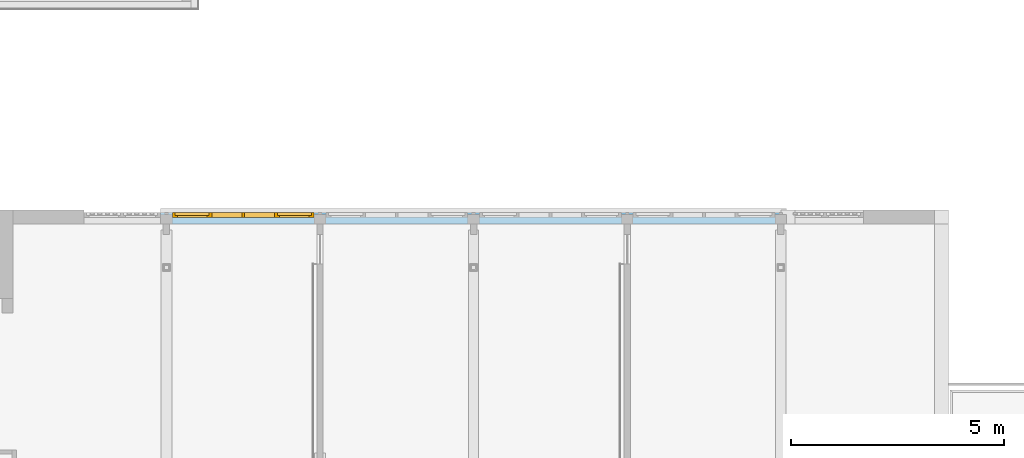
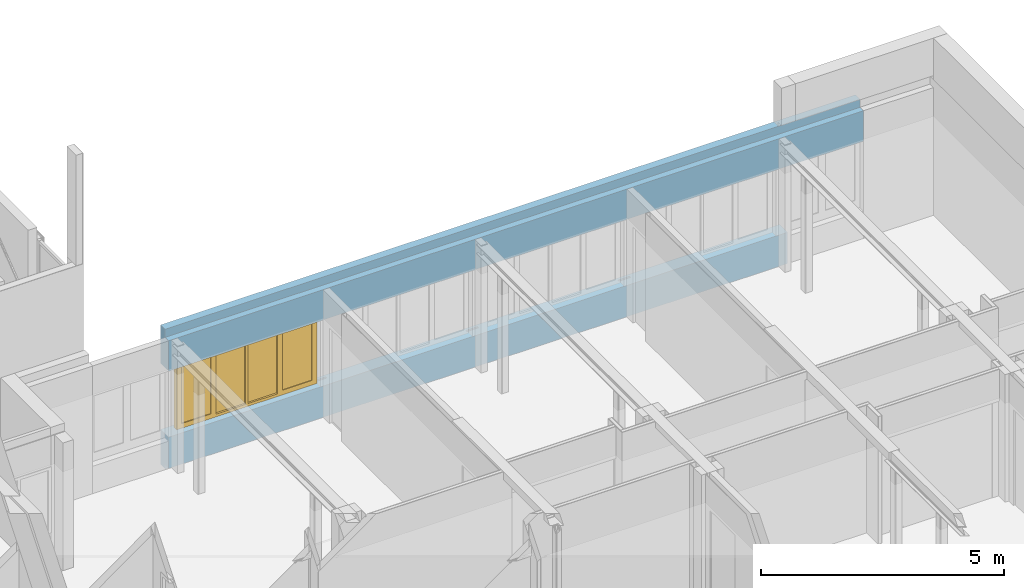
# One storey, part 42 of 117: 1 window, 6 openings, plus 1 element that does not belong to this part.
"""IFC2X3 building model written with IfcOpenShell, lengths in millimetres."""

from ifc_helpers import new_model, entity, si_unit, converted_unit, derived_unit, money_unit, direction, frame, origin_with_axes, place, context, subcontext, project, spatial, open_shell, faceted_brep, surface_model, material, type_object, element, fill, save


model = new_model("IFC2X3")

# Units and contexts
model_context = context("Model", 3, precision=0.01, world=origin_with_axes(), true_north=direction((0.0, 1.0)))
body_context = subcontext(model_context, "Body", "Model", "MODEL_VIEW")
ifc_project = project(units=[si_unit("LENGTHUNIT", "METRE", prefix="MILLI"), si_unit("AREAUNIT", "SQUARE_METRE"), si_unit("VOLUMEUNIT", "CUBIC_METRE"), converted_unit("PLANEANGLEUNIT", "DEGREE", entity("IfcPlaneAngleMeasure", 0.0174532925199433), si_unit("PLANEANGLEUNIT", "RADIAN"), dimensions=[0, 0, 0, 0, 0, 0, 0]), money_unit("EUR"), converted_unit("TIMEUNIT", "Year", entity("IfcTimeMeasure", 31557600.0), si_unit("TIMEUNIT", "SECOND"), dimensions=[0, 0, 1, 0, 0, 0, 0]), si_unit("MASSUNIT", "GRAM", prefix="KILO"), si_unit("THERMODYNAMICTEMPERATUREUNIT", "DEGREE_CELSIUS"), si_unit("LUMINOUSINTENSITYUNIT", "LUMEN"), si_unit("ENERGYUNIT", "JOULE", prefix="MEGA"), derived_unit("THERMALCONDUCTANCEUNIT", [(si_unit("POWERUNIT", "WATT"), 1), (si_unit("LENGTHUNIT", "METRE"), -1), (si_unit("THERMODYNAMICTEMPERATUREUNIT", "KELVIN"), -1)]), derived_unit("SPECIFICHEATCAPACITYUNIT", [(si_unit("ENERGYUNIT", "JOULE"), 1), (si_unit("MASSUNIT", "GRAM", prefix="KILO"), -1), (si_unit("THERMODYNAMICTEMPERATUREUNIT", "KELVIN"), -1)]), derived_unit("MASSDENSITYUNIT", [(si_unit("MASSUNIT", "GRAM", prefix="KILO"), 1), (si_unit("VOLUMEUNIT", "CUBIC_METRE"), -1)])], contexts=[model_context])

# Site, building, storey
site_placement = place(None, origin_with_axes())
site = spatial("IfcSite", under=ifc_project, at=site_placement, Name="Site", CompositionType="ELEMENT")
building_placement = place(site_placement, origin_with_axes())
building = spatial("IfcBuilding", under=site, at=building_placement, Name="Naam gebouw", CompositionType="ELEMENT")
storey_placement = place(building_placement, frame((0.0, 0.0, 4150.0), z_axis=(0.0, 0.0, 1.0), x_axis=(1.0, 0.0, 0.0)))
storey = spatial("IfcBuildingStorey", under=building, at=storey_placement, Name="1e verdieping N", CompositionType="ELEMENT", Elevation=4150.0)

# Wall, openings, window
ifc_material = material(Name="ALG - CONSTRUCTIEF")
wall_type = type_object("IfcWallType", Name="ALG - CONSTRUCTIEF 330", PredefinedType="NOTDEFINED")
wall_placement = place(storey_placement, frame((52337.49999999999, 27505.91242510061, -99.99999999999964), z_axis=(0.0, 0.0, 1.0), x_axis=(-1.0, 0.0, 0.0)))
wall = element("IfcWall", 1, at=wall_placement, inside=storey, type_object=wall_type, material=ifc_material, Name="_Wand-x", context=body_context, shape_type="Brep", body=[
    faceted_brep([(1799.999999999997, -216.0000000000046, 883.0000000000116), (1799.999999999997, -259.999999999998, 883.0000000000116), (2075.00000000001, -259.999999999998, 883.0000000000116), (2075.00000000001, -216.0000000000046, 883.0000000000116), (1799.999999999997, 0.0, 883.0000000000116), (1799.999999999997, 0.0, 786.5000000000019), (1799.999999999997, -146.0000000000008, 786.5000000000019), (1799.999999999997, -145.9999999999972, 99.99999999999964), (1799.999999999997, -145.9999999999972, 0.0), (1799.999999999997, -259.999999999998, 0.0), (1799.999999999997, -329.9999999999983, 0.0), (1799.999999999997, -329.9999999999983, 883.0000000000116), (16475.0, -329.9999999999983, 883.0000000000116), (16475.0, -259.999999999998, 883.0000000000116), (16200.0, -259.999999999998, 883.0000000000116), (16200.0, -216.0000000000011, 883.0000000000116), (16474.99999999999, -216.0000000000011, 883.0000000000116), (16474.99999999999, 0.0, 883.0000000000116), (5675.000000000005, -259.999999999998, 883.0000000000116), (5399.999999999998, -259.999999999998, 883.0000000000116), (5399.999999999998, -216.0000000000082, 883.0000000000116), (5675.000000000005, -216.0000000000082, 882.9999999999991), (9275.000000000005, -259.9999999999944, 883.0000000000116), (9000.0, -259.9999999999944, 883.0000000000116), (9000.0, -216.0000000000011, 882.9999999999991), (9275.000000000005, -216.0000000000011, 882.9999999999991), (12875.00000000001, -259.999999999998, 883.0000000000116), (12599.99999999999, -259.999999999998, 883.0000000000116), (12599.99999999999, -216.0000000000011, 883.0000000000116), (12875.00000000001, -216.0000000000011, 883.0000000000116), (16475.0, 0.0, 786.5000000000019), (16475.0, 0.0, 99.99999999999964), (1799.999999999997, 0.0, 99.99999999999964), (16475.0, -145.9999999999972, 99.99999999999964), (16475.0, -145.9999999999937, 0.0), (16475.0, -329.9999999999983, 0.0), (16475.0, -145.9999999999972, 786.5000000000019)], [[[0, 1, 2, 3]], [[1, 0, 4, 5, 6, 7, 8, 9, 10, 11]], [[4, 0, 3, 2, 1, 11, 12, 13, 14, 15, 16, 17], [18, 19, 20, 21], [22, 23, 24, 25], [26, 27, 28, 29]], [[5, 4, 17, 30, 31, 32]], [[6, 5, 32, 7]], [[8, 7, 33, 34]], [[9, 8, 34, 35, 10]], [[10, 35, 12, 11]], [[16, 13, 12, 35, 34, 33, 36, 30, 17]], [[14, 13, 16, 15]], [[19, 18, 21, 20]], [[23, 22, 25, 24]], [[27, 26, 29, 28]], [[36, 33, 31, 30]], [[7, 32, 31, 33]]]),
    faceted_brep([(0.0, 0.0, 2539.999999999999), (0.0, -259.999999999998, 2539.999999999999), (0.0, -329.9999999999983, 2539.999999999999), (0.0, -329.9999999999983, 3500.0), (0.0, -145.5905537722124, 3500.0), (0.0, -145.5905537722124, 3300.0), (0.0, 0.0, 3300.0), (1799.999999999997, 0.0, 2539.999999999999), (16474.99999999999, 0.0, 2539.999999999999), (16475.0, -145.9999999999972, 2539.999999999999), (16474.99999999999, -216.0000000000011, 2539.999999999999), (16200.0, -216.0000000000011, 2539.999999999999), (16200.0, -259.999999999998, 2539.999999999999), (16475.0, -259.999999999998, 2539.999999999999), (16475.0, -329.9999999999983, 2539.999999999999), (5399.999999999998, -216.0000000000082, 2539.999999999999), (5399.999999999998, -259.999999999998, 2539.999999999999), (5675.000000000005, -259.999999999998, 2539.999999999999), (5675.000000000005, -216.0000000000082, 2539.999999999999), (9000.0, -259.9999999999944, 2539.999999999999), (9275.000000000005, -259.9999999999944, 2539.999999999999), (9275.000000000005, -216.0000000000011, 2539.999999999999), (9000.0, -216.0000000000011, 2539.999999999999), (12599.99999999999, -259.999999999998, 2539.999999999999), (12875.00000000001, -259.999999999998, 2539.999999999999), (12875.00000000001, -216.0000000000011, 2539.999999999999), (12599.99999999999, -216.0000000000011, 2539.999999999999), (1799.999999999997, -216.0000000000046, 2539.999999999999), (1799.999999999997, -259.999999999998, 2539.999999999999), (2075.00000000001, -259.999999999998, 2539.999999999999), (2075.00000000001, -216.0000000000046, 2539.999999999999), (16475.0, -329.9999999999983, 3500.0), (16475.0, -146.0000000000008, 3500.0), (16475.0, -146.0000000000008, 3300.0), (16475.0, 0.0, 3300.0)], [[[0, 1, 2, 3, 4, 5, 6]], [[7, 8, 9, 10, 11, 12, 13, 14, 2, 1, 0], [15, 16, 17, 18], [19, 20, 21, 22], [23, 24, 25, 26], [27, 28, 29, 30]], [[14, 31, 3, 2]], [[4, 3, 31, 32]], [[5, 4, 32, 33]], [[6, 5, 33, 34]], [[7, 0, 6, 34, 8]], [[33, 9, 8, 34]], [[33, 32, 31, 14, 13, 10, 9]], [[13, 12, 11, 10]], [[16, 15, 18, 17]], [[20, 19, 22, 21]], [[24, 23, 26, 25]], [[28, 27, 30, 29]]]),
])
opening_1_placement = place(wall_placement, frame((3737.499999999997, 0.0, 883.0000000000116), z_axis=(0.0, 0.0, 1.0), x_axis=(1.0, 0.0, 0.0)))
element("IfcOpeningElement", 2, at=opening_1_placement, cuts=wall, Name="_Merk-038", context=body_context, shape_type="Brep", body=[
    faceted_brep([(1662.500000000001, -259.999999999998, 0.0), (1662.500000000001, -259.999999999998, 1656.999999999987), (1662.500000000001, -331.0000000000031, 1656.999999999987), (1662.500000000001, -331.0000000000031, 0.0), (1662.500000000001, 1.000000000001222, 0.0), (1662.500000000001, 1.000000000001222, 1656.999999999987), (-1937.5, -259.999999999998, 1656.999999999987), (-1937.5, -331.0000000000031, 1656.999999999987), (-1937.5, 1.000000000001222, 1656.999999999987), (-1937.5, -331.0000000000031, 0.0), (-1937.5, -259.999999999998, 0.0), (-1937.5, 1.000000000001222, 0.0)], [[[0, 1, 2, 3]], [[1, 0, 4, 5]], [[6, 7, 2, 1, 5, 8]], [[7, 9, 3, 2]], [[0, 3, 9, 10, 11, 4]], [[5, 4, 11, 8]], [[6, 10, 9, 7]], [[10, 6, 8, 11]]]),
])
opening_2_placement = place(wall_placement, frame((10937.5, 0.0, 883.0000000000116), z_axis=(0.0, 0.0, 1.0), x_axis=(1.0, 0.0, 0.0)))
element("IfcOpeningElement", 3, at=opening_2_placement, cuts=wall, Name="_Merk-038", context=body_context, shape_type="Brep", body=[
    faceted_brep([(1662.500000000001, -259.9999999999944, 0.0), (1662.500000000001, -259.9999999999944, 1656.999999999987), (1662.500000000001, -330.9999999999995, 1656.999999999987), (1662.500000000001, -330.9999999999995, 0.0), (1662.500000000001, 1.000000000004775, 0.0), (1662.500000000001, 1.000000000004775, 1656.999999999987), (-1937.5, -259.9999999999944, 1656.999999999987), (-1937.5, -330.9999999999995, 1656.999999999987), (-1937.5, 1.000000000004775, 1656.999999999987), (-1937.5, -330.9999999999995, 0.0), (-1937.5, -259.9999999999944, 0.0), (-1937.5, 1.000000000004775, 0.0)], [[[0, 1, 2, 3]], [[1, 0, 4, 5]], [[6, 7, 2, 1, 5, 8]], [[7, 9, 3, 2]], [[0, 3, 9, 10, 11, 4]], [[5, 4, 11, 8]], [[6, 10, 9, 7]], [[10, 6, 8, 11]]]),
])
opening_3_placement = place(wall_placement, frame((14537.49999999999, 0.0, 883.0000000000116), z_axis=(0.0, 0.0, 1.0), x_axis=(1.0, 0.0, 0.0)))
opening_3 = element("IfcOpeningElement", 4, at=opening_3_placement, cuts=wall, Name="_Merk-038", context=body_context, shape_type="Brep", body=[
    faceted_brep([(1937.5, -259.999999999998, 0.0), (1937.5, -259.999999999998, 1656.999999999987), (1937.5, -330.9999999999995, 1656.999999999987), (1937.5, -330.9999999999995, 0.0), (1937.5, 1.000000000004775, 0.0), (1937.5, 1.000000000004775, 1656.999999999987), (-1937.5, -259.999999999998, 1656.999999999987), (-1937.5, -330.9999999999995, 1656.999999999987), (-1937.5, 1.000000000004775, 1656.999999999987), (-1937.5, -330.9999999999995, 0.0), (-1937.5, -259.999999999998, 0.0), (-1937.5, 1.000000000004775, 0.0)], [[[0, 1, 2, 3]], [[1, 0, 4, 5]], [[6, 7, 2, 1, 5, 8]], [[7, 9, 3, 2]], [[0, 3, 9, 10, 11, 4]], [[5, 4, 11, 8]], [[6, 10, 9, 7]], [[10, 6, 8, 11]]]),
])
opening_4_placement = place(wall_placement, frame((7337.499999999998, 0.0, 883.0000000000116), z_axis=(0.0, 0.0, 1.0), x_axis=(1.0, 0.0, 0.0)))
element("IfcOpeningElement", 5, at=opening_4_placement, cuts=wall, Name="_Merk-038", context=body_context, shape_type="Brep", body=[
    faceted_brep([(1662.500000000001, -259.999999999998, 0.0), (1662.500000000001, -259.999999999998, 1656.999999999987), (1662.500000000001, -331.0000000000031, 1656.999999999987), (1662.500000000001, -331.0000000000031, 0.0), (1662.500000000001, 1.000000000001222, 0.0), (1662.500000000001, 1.000000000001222, 1656.999999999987), (-1937.5, -260.0000000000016, 1656.999999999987), (-1937.5, -331.0000000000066, 1656.999999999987), (-1937.5, 0.9999999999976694, 1656.999999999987), (-1937.5, -331.0000000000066, 0.0), (-1937.5, -260.0000000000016, 0.0), (-1937.5, 0.9999999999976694, 0.0)], [[[0, 1, 2, 3]], [[1, 0, 4, 5]], [[6, 7, 2, 1, 5, 8]], [[7, 9, 3, 2]], [[0, 3, 9, 10, 11, 4]], [[5, 4, 11, 8]], [[6, 10, 9, 7]], [[10, 6, 8, 11]]]),
])
opening_5_placement = place(wall_placement, frame((17375.0, 0.0, -960.0000000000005), z_axis=(0.0, 0.0, 1.0), x_axis=(1.0, 0.0, 0.0)))
element("IfcOpeningElement", 6, at=opening_5_placement, cuts=wall, Name="_Merk-037", context=body_context, shape_type="Brep", body=[
    faceted_brep([(899.9999999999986, -259.999999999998, 0.0), (899.9999999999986, -259.999999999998, 4500.0), (899.9999999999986, -330.9999999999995, 4500.0), (899.9999999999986, -330.9999999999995, 0.0), (899.9999999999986, 1.000000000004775, 0.0), (899.9999999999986, 1.000000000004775, 4500.0), (-899.9999999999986, -259.999999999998, 4500.0), (-899.9999999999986, -330.9999999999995, 4500.0), (-899.9999999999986, 1.000000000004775, 4500.0), (-899.9999999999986, -330.9999999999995, 0.0), (-899.9999999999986, -259.999999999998, 0.0), (-899.9999999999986, 1.000000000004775, 0.0)], [[[0, 1, 2, 3]], [[1, 0, 4, 5]], [[6, 7, 2, 1, 5, 8]], [[7, 9, 3, 2]], [[0, 3, 9, 10, 11, 4]], [[5, 4, 11, 8]], [[6, 10, 9, 7]], [[10, 6, 8, 11]]]),
])
opening_6_placement = place(wall_placement, frame((899.9999999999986, 0.0, -960.0000000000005), z_axis=(0.0, 0.0, 1.0), x_axis=(1.0, 0.0, 0.0)))
element("IfcOpeningElement", 7, at=opening_6_placement, cuts=wall, Name="_Merk-037", context=body_context, shape_type="Brep", body=[
    faceted_brep([(899.9999999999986, -259.999999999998, 0.0), (899.9999999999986, -259.999999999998, 3500.0), (899.9999999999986, -331.0000000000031, 3500.0), (899.9999999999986, -331.0000000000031, 0.0), (899.9999999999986, 1.000000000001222, 0.0), (899.9999999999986, 1.000000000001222, 3500.0), (-899.9999999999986, -259.999999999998, 3500.0), (-899.9999999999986, -331.0000000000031, 3500.0), (-899.9999999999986, 1.000000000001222, 3500.0), (-899.9999999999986, -331.0000000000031, 0.0), (-899.9999999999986, -259.999999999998, 0.0), (-899.9999999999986, 1.000000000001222, 0.0)], [[[0, 1, 2, 3]], [[1, 0, 4, 5]], [[6, 7, 2, 1, 5, 8]], [[7, 9, 3, 2]], [[0, 3, 9, 10, 11, 4]], [[5, 4, 11, 8]], [[6, 10, 9, 7]], [[10, 6, 8, 11]]]),
])
window_style = type_object("IfcWindowStyle", Name="Rnx horizontaal 26", ConstructionType="NOTDEFINED", OperationType="USERDEFINED", ParameterTakesPrecedence=False, Sizeable=False)
window_placement = place(opening_3_placement, frame((-1662.500000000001, 0.0, 0.0), z_axis=(0.0, 0.0, 1.0), x_axis=(1.0, 0.0, 0.0)))
window = element("IfcWindow", 8, at=window_placement, inside=storey, type_object=window_style, Name="_Merk-038", ObjectType="WINDOW", OverallHeight=1657.0, OverallWidth=3325.0, context=body_context, shape_type="SurfaceModel", body=[
    faceted_brep([(3274.999999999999, -145.9999999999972, 1589.999999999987), (3274.999999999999, -199.9999999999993, 1589.999999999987), (3258.000000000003, -199.9999999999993, 1589.999999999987), (3258.000000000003, -259.999999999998, 1589.999999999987), (3325.000000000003, -259.999999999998, 1589.999999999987), (3325.000000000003, -145.9999999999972, 1589.999999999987), (3274.999999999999, -145.9999999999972, 67.00000000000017), (3274.999999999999, -199.9999999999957, 67.00000000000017), (3258.000000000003, -199.9999999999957, 67.00000000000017), (3258.000000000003, -259.999999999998, 67.00000000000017), (3325.000000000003, -259.999999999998, 67.00000000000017), (3325.000000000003, -145.9999999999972, 67.00000000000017)], [[[0, 1, 2, 3, 4, 5]], [[1, 0, 6, 7]], [[8, 2, 1, 7]], [[2, 8, 9, 3]], [[4, 3, 9, 10]], [[5, 4, 10, 11]], [[6, 0, 5, 11]], [[7, 6, 11, 10, 9, 8]]]),
    faceted_brep([(67.00000000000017, -199.9999999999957, 1589.999999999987), (50.00000000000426, -199.9999999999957, 1589.999999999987), (50.00000000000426, -145.9999999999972, 1589.999999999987), (0.0, -145.9999999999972, 1589.999999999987), (0.0, -259.999999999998, 1589.999999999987), (67.00000000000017, -259.999999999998, 1589.999999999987), (67.00000000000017, -199.9999999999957, 67.00000000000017), (50.00000000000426, -199.9999999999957, 67.00000000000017), (50.00000000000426, -145.9999999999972, 67.00000000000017), (0.0, -145.9999999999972, 67.00000000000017), (0.0, -259.999999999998, 67.00000000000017), (67.00000000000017, -259.999999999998, 67.00000000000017)], [[[0, 1, 2, 3, 4, 5]], [[1, 0, 6, 7]], [[8, 2, 1, 7]], [[2, 8, 9, 3]], [[9, 10, 4, 3]], [[10, 11, 5, 4]], [[6, 0, 5, 11]], [[7, 6, 11, 10, 9, 8]]]),
    faceted_brep([(3274.999999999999, -145.9999999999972, 1589.999999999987), (3274.999999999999, -145.9999999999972, 1606.999999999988), (2443.5, -145.9999999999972, 1606.999999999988), (2443.5, -145.9999999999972, 1589.999999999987), (2393.500000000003, -145.9999999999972, 1589.999999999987), (1696.000000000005, -145.9999999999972, 1589.999999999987), (1629.000000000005, -145.9999999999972, 1589.999999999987), (931.4999999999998, -145.9999999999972, 1589.999999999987), (881.5000000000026, -145.9999999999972, 1589.999999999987), (881.5000000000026, -145.9999999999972, 1606.999999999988), (50.00000000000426, -145.9999999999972, 1606.999999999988), (50.00000000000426, -145.9999999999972, 1589.999999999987), (0.0, -145.9999999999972, 1589.999999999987), (0.0, -145.9999999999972, 1656.999999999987), (3325.000000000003, -145.9999999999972, 1656.999999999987), (3325.000000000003, -145.9999999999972, 1589.999999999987), (3274.999999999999, -199.9999999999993, 1589.999999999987), (3274.999999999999, -199.9999999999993, 1606.999999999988), (2443.5, -199.9999999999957, 1606.999999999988), (2443.5, -199.9999999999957, 1589.999999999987), (2460.500000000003, -199.9999999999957, 1589.999999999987), (2460.500000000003, -259.999999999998, 1589.999999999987), (2393.500000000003, -259.999999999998, 1589.999999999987), (1696.000000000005, -259.999999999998, 1589.999999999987), (1629.000000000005, -259.999999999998, 1589.999999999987), (931.4999999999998, -259.999999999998, 1589.999999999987), (881.5000000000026, -199.9999999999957, 1589.999999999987), (864.4999999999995, -259.999999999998, 1589.999999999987), (864.4999999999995, -199.9999999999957, 1589.999999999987), (881.5000000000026, -199.9999999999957, 1606.999999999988), (50.00000000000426, -199.9999999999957, 1606.999999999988), (50.00000000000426, -199.9999999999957, 1589.999999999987), (67.00000000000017, -199.9999999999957, 1589.999999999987), (67.00000000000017, -259.999999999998, 1589.999999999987), (0.0, -259.999999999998, 1589.999999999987), (0.0, -259.999999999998, 1656.999999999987), (3325.000000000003, -259.999999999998, 1656.999999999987), (3325.000000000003, -259.999999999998, 1589.999999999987), (3258.000000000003, -259.999999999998, 1589.999999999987), (3258.000000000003, -199.9999999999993, 1589.999999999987)], [[[0, 1, 2, 3, 4, 5, 6, 7, 8, 9, 10, 11, 12, 13, 14, 15]], [[1, 0, 16, 17]], [[2, 1, 17, 18]], [[3, 2, 18, 19]], [[19, 20, 21, 22, 4, 3]], [[4, 22, 23, 5]], [[5, 23, 24, 6]], [[6, 24, 25, 7]], [[26, 8, 7, 25, 27, 28]], [[9, 8, 26, 29]], [[10, 9, 29, 30]], [[11, 10, 30, 31]], [[31, 32, 33, 34, 12, 11]], [[12, 34, 35, 13]], [[13, 35, 36, 14]], [[14, 36, 37, 15]], [[16, 0, 15, 37, 38, 39]], [[20, 19, 18, 17, 16, 39]], [[20, 39, 38, 21]], [[34, 33, 27, 25, 24, 23, 22, 21, 38, 37, 36, 35]], [[32, 28, 27, 33]], [[32, 31, 30, 29, 26, 28]]]),
    faceted_brep([(2460.500000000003, -199.9999999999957, 67.00000000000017), (2443.5, -199.9999999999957, 67.00000000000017), (2443.5, -145.9999999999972, 67.00000000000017), (2393.500000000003, -145.9999999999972, 67.00000000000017), (2393.500000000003, -259.999999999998, 67.00000000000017), (2460.500000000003, -259.999999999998, 67.00000000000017), (3258.000000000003, -199.9999999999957, 67.00000000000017), (3274.999999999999, -199.9999999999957, 67.00000000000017), (3274.999999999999, -199.9999999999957, 49.99999999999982), (2443.5, -199.9999999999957, 49.99999999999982), (2443.5, -145.9999999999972, 49.99999999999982), (3274.999999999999, -145.9999999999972, 49.99999999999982), (3274.999999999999, -145.9999999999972, 67.00000000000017), (3325.000000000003, -145.9999999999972, 67.00000000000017), (3325.000000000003, -145.9999999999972, 0.0), (0.0, -145.9999999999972, 0.0), (0.0, -145.9999999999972, 67.00000000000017), (50.00000000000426, -145.9999999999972, 67.00000000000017), (50.00000000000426, -145.9999999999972, 49.99999999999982), (881.5000000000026, -145.9999999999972, 49.99999999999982), (881.5000000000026, -145.9999999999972, 67.00000000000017), (931.4999999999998, -145.9999999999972, 67.00000000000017), (1629.000000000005, -145.9999999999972, 67.00000000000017), (1696.000000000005, -145.9999999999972, 67.00000000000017), (1696.000000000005, -259.999999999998, 67.00000000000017), (931.4999999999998, -259.999999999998, 67.00000000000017), (864.4999999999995, -259.999999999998, 67.00000000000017), (67.00000000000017, -259.999999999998, 67.00000000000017), (0.0, -259.999999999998, 67.00000000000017), (0.0, -259.999999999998, 0.0), (3325.000000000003, -259.999999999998, 0.0), (3325.000000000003, -259.999999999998, 67.00000000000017), (3258.000000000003, -259.999999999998, 67.00000000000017), (1629.000000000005, -259.999999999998, 67.00000000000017), (67.00000000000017, -199.9999999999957, 67.00000000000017), (50.00000000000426, -199.9999999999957, 67.00000000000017), (50.00000000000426, -199.9999999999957, 49.99999999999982), (881.5000000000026, -199.9999999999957, 49.99999999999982), (881.5000000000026, -199.9999999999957, 67.00000000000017), (864.4999999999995, -199.9999999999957, 67.00000000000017)], [[[0, 1, 2, 3, 4, 5]], [[1, 0, 6, 7, 8, 9]], [[10, 2, 1, 9]], [[11, 12, 13, 14, 15, 16, 17, 18, 19, 20, 21, 22, 23, 3, 2, 10]], [[23, 24, 4, 3]], [[25, 26, 27, 28, 29, 30, 31, 32, 5, 4, 24, 33]], [[6, 0, 5, 32]], [[7, 6, 32, 31, 13, 12]], [[7, 12, 11, 8]], [[11, 10, 9, 8]], [[13, 31, 30, 14]], [[14, 30, 29, 15]], [[15, 29, 28, 16]], [[34, 35, 17, 16, 28, 27]], [[18, 17, 35, 36]], [[19, 18, 36, 37]], [[38, 20, 19, 37]], [[38, 39, 26, 25, 21, 20]], [[21, 25, 33, 22]], [[22, 33, 24, 23]], [[39, 34, 27, 26]], [[35, 34, 39, 38, 37, 36]]]),
    faceted_brep([(2460.500000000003, -199.9999999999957, 1589.999999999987), (2443.5, -199.9999999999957, 1589.999999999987), (2443.5, -145.9999999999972, 1589.999999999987), (2393.500000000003, -145.9999999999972, 1589.999999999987), (2393.500000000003, -259.999999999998, 1589.999999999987), (2460.500000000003, -259.999999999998, 1589.999999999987), (2460.500000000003, -199.9999999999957, 67.00000000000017), (2443.5, -199.9999999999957, 67.00000000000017), (2443.5, -145.9999999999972, 67.00000000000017), (2393.500000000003, -145.9999999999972, 67.00000000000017), (2393.500000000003, -259.999999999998, 67.00000000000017), (2460.500000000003, -259.999999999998, 67.00000000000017)], [[[0, 1, 2, 3, 4, 5]], [[1, 0, 6, 7]], [[8, 2, 1, 7]], [[2, 8, 9, 3]], [[9, 10, 4, 3]], [[4, 10, 11, 5]], [[6, 0, 5, 11]], [[7, 6, 11, 10, 9, 8]]]),
    faceted_brep([(1629.000000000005, -145.9999999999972, 67.00000000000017), (1629.000000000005, -259.999999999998, 67.00000000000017), (1629.000000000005, -259.999999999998, 1589.999999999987), (1629.000000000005, -145.9999999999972, 1589.999999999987), (1696.000000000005, -145.9999999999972, 67.00000000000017), (1696.000000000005, -259.999999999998, 67.00000000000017), (1696.000000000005, -259.999999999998, 1589.999999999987), (1696.000000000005, -145.9999999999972, 1589.999999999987)], [[[0, 1, 2, 3]], [[4, 5, 1, 0]], [[2, 1, 5, 6]], [[3, 2, 6, 7]], [[4, 0, 3, 7]], [[7, 6, 5, 4]]]),
    faceted_brep([(881.5000000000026, -145.9999999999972, 1589.999999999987), (881.5000000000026, -199.9999999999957, 1589.999999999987), (864.4999999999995, -199.9999999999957, 1589.999999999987), (864.4999999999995, -259.999999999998, 1589.999999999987), (931.4999999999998, -259.999999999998, 1589.999999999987), (931.4999999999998, -145.9999999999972, 1589.999999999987), (881.5000000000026, -145.9999999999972, 67.00000000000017), (881.5000000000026, -199.9999999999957, 67.00000000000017), (864.4999999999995, -199.9999999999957, 67.00000000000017), (864.4999999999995, -259.999999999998, 67.00000000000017), (931.4999999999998, -259.999999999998, 67.00000000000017), (931.4999999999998, -145.9999999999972, 67.00000000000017)], [[[0, 1, 2, 3, 4, 5]], [[1, 0, 6, 7]], [[8, 2, 1, 7]], [[2, 8, 9, 3]], [[3, 9, 10, 4]], [[5, 4, 10, 11]], [[6, 0, 5, 11]], [[7, 6, 11, 10, 9, 8]]]),
    faceted_brep([(3207.999999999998, -199.9999999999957, 1539.999999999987), (3274.999999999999, -199.9999999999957, 1539.999999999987), (3274.999999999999, -145.9999999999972, 1539.999999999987), (3207.999999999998, -145.9999999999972, 1539.999999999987), (3207.999999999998, -199.9999999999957, 117.0), (3274.999999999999, -199.9999999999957, 117.0), (3274.999999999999, -145.9999999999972, 117.0), (3207.999999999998, -145.9999999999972, 117.0)], [[[0, 1, 2, 3]], [[0, 4, 5, 1]], [[1, 5, 6, 2]], [[3, 2, 6, 7]], [[4, 0, 3, 7]], [[5, 4, 7, 6]]]),
    faceted_brep([(2510.5, -199.9999999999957, 117.0), (2443.5, -199.9999999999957, 117.0), (2443.5, -145.9999999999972, 117.0), (2510.5, -145.9999999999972, 117.0), (2510.5, -199.9999999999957, 1539.999999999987), (2443.5, -199.9999999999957, 1539.999999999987), (2443.5, -145.9999999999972, 1539.999999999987), (2510.5, -145.9999999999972, 1539.999999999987)], [[[0, 1, 2, 3]], [[0, 4, 5, 1]], [[1, 5, 6, 2]], [[3, 2, 6, 7]], [[4, 0, 3, 7]], [[5, 4, 7, 6]]]),
    faceted_brep([(2443.5, -199.9999999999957, 49.99999999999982), (2443.5, -199.9999999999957, 117.0), (2443.5, -145.9999999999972, 117.0), (2443.5, -145.9999999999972, 49.99999999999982), (3274.999999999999, -199.9999999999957, 49.99999999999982), (3274.999999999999, -199.9999999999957, 117.0), (3207.999999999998, -199.9999999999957, 117.0), (2510.5, -199.9999999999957, 117.0), (2510.5, -145.9999999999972, 117.0), (3207.999999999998, -145.9999999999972, 117.0), (3274.999999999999, -145.9999999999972, 117.0), (3274.999999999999, -145.9999999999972, 49.99999999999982)], [[[0, 1, 2, 3]], [[0, 4, 5, 6, 7, 1]], [[1, 7, 8, 2]], [[3, 2, 8, 9, 10, 11]], [[4, 0, 3, 11]], [[5, 4, 11, 10]], [[6, 5, 10, 9]], [[7, 6, 9, 8]]]),
    faceted_brep([(3274.999999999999, -199.9999999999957, 1606.999999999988), (3274.999999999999, -199.9999999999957, 1539.999999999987), (3274.999999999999, -145.9999999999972, 1539.999999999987), (3274.999999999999, -145.9999999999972, 1606.999999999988), (2443.5, -199.9999999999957, 1606.999999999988), (2443.5, -199.9999999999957, 1539.999999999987), (2510.5, -199.9999999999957, 1539.999999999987), (3207.999999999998, -199.9999999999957, 1539.999999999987), (3207.999999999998, -145.9999999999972, 1539.999999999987), (2510.5, -145.9999999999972, 1539.999999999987), (2443.5, -145.9999999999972, 1539.999999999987), (2443.5, -145.9999999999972, 1606.999999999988)], [[[0, 1, 2, 3]], [[0, 4, 5, 6, 7, 1]], [[1, 7, 8, 2]], [[3, 2, 8, 9, 10, 11]], [[4, 0, 3, 11]], [[5, 4, 11, 10]], [[6, 5, 10, 9]], [[7, 6, 9, 8]]]),
    surface_model("IfcShellBasedSurfaceModel", [(3207.999999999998, -182.9999999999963, 117.0), (3207.999999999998, -182.9999999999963, 1539.999999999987), (2510.5, -182.9999999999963, 1539.999999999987), (2510.5, -182.9999999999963, 117.0)], [open_shell([[[0, 1, 2, 3]]])]),
    surface_model("IfcShellBasedSurfaceModel", [(3207.999999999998, -162.9999999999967, 117.0), (2510.5, -162.9999999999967, 117.0), (2510.5, -162.9999999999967, 1539.999999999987), (3207.999999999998, -162.9999999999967, 1539.999999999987)], [open_shell([[[0, 1, 2, 3]]])]),
    surface_model("IfcShellBasedSurfaceModel", [(2393.500000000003, -209.9999999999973, 67.00000000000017), (2393.500000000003, -209.9999999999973, 1589.999999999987), (1696.000000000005, -209.9999999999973, 1589.999999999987), (1696.000000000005, -209.9999999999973, 67.00000000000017)], [open_shell([[[0, 1, 2, 3]]])]),
    surface_model("IfcShellBasedSurfaceModel", [(2393.500000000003, -189.9999999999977, 67.00000000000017), (1696.000000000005, -189.9999999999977, 67.00000000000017), (1696.000000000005, -189.9999999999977, 1589.999999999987), (2393.500000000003, -189.9999999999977, 1589.999999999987)], [open_shell([[[0, 1, 2, 3]]])]),
    surface_model("IfcShellBasedSurfaceModel", [(1629.000000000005, -209.9999999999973, 67.00000000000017), (1629.000000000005, -209.9999999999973, 1589.999999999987), (931.4999999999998, -209.9999999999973, 1589.999999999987), (931.4999999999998, -209.9999999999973, 67.00000000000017)], [open_shell([[[0, 1, 2, 3]]])]),
    surface_model("IfcShellBasedSurfaceModel", [(1629.000000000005, -189.9999999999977, 67.00000000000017), (931.4999999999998, -189.9999999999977, 67.00000000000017), (931.4999999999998, -189.9999999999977, 1589.999999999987), (1629.000000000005, -189.9999999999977, 1589.999999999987)], [open_shell([[[0, 1, 2, 3]]])]),
    faceted_brep([(814.5000000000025, -199.9999999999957, 1539.999999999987), (881.5000000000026, -199.9999999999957, 1539.999999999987), (881.5000000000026, -145.9999999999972, 1539.999999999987), (814.5000000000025, -145.9999999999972, 1539.999999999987), (814.5000000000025, -199.9999999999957, 117.0), (881.5000000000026, -199.9999999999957, 117.0), (881.5000000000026, -145.9999999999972, 117.0), (814.5000000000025, -145.9999999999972, 117.0)], [[[0, 1, 2, 3]], [[0, 4, 5, 1]], [[1, 5, 6, 2]], [[3, 2, 6, 7]], [[4, 0, 3, 7]], [[5, 4, 7, 6]]]),
    faceted_brep([(117.0000000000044, -199.9999999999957, 117.0), (50.00000000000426, -199.9999999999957, 117.0), (50.00000000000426, -145.9999999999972, 117.0), (117.0000000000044, -145.9999999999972, 117.0), (117.0000000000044, -199.9999999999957, 1539.999999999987), (50.00000000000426, -199.9999999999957, 1539.999999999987), (50.00000000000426, -145.9999999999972, 1539.999999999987), (117.0000000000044, -145.9999999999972, 1539.999999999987)], [[[0, 1, 2, 3]], [[0, 4, 5, 1]], [[1, 5, 6, 2]], [[3, 2, 6, 7]], [[4, 0, 3, 7]], [[5, 4, 7, 6]]]),
    faceted_brep([(50.00000000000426, -199.9999999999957, 49.99999999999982), (50.00000000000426, -199.9999999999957, 117.0), (50.00000000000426, -145.9999999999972, 117.0), (50.00000000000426, -145.9999999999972, 49.99999999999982), (881.5000000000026, -199.9999999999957, 49.99999999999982), (881.5000000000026, -199.9999999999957, 117.0), (814.5000000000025, -199.9999999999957, 117.0), (117.0000000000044, -199.9999999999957, 117.0), (117.0000000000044, -145.9999999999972, 117.0), (814.5000000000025, -145.9999999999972, 117.0), (881.5000000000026, -145.9999999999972, 117.0), (881.5000000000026, -145.9999999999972, 49.99999999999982)], [[[0, 1, 2, 3]], [[0, 4, 5, 6, 7, 1]], [[1, 7, 8, 2]], [[3, 2, 8, 9, 10, 11]], [[4, 0, 3, 11]], [[5, 4, 11, 10]], [[6, 5, 10, 9]], [[7, 6, 9, 8]]]),
    faceted_brep([(881.5000000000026, -199.9999999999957, 1606.999999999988), (881.5000000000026, -199.9999999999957, 1539.999999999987), (881.5000000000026, -145.9999999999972, 1539.999999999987), (881.5000000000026, -145.9999999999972, 1606.999999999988), (50.00000000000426, -199.9999999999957, 1606.999999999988), (50.00000000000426, -199.9999999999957, 1539.999999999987), (117.0000000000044, -199.9999999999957, 1539.999999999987), (814.5000000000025, -199.9999999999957, 1539.999999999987), (814.5000000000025, -145.9999999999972, 1539.999999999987), (117.0000000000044, -145.9999999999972, 1539.999999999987), (50.00000000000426, -145.9999999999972, 1539.999999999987), (50.00000000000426, -145.9999999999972, 1606.999999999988)], [[[0, 1, 2, 3]], [[0, 4, 5, 6, 7, 1]], [[1, 7, 8, 2]], [[3, 2, 8, 9, 10, 11]], [[4, 0, 3, 11]], [[5, 4, 11, 10]], [[6, 5, 10, 9]], [[7, 6, 9, 8]]]),
    surface_model("IfcShellBasedSurfaceModel", [(814.5000000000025, -182.9999999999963, 117.0), (814.5000000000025, -182.9999999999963, 1539.999999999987), (117.0000000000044, -182.9999999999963, 1539.999999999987), (117.0000000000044, -182.9999999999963, 117.0)], [open_shell([[[0, 1, 2, 3]]])]),
    surface_model("IfcShellBasedSurfaceModel", [(814.5000000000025, -162.9999999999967, 117.0), (117.0000000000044, -162.9999999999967, 117.0), (117.0000000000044, -162.9999999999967, 1539.999999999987), (814.5000000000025, -162.9999999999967, 1539.999999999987)], [open_shell([[[0, 1, 2, 3]]])]),
])
fill(opening_3, window)

save(model, "model.ifc")
